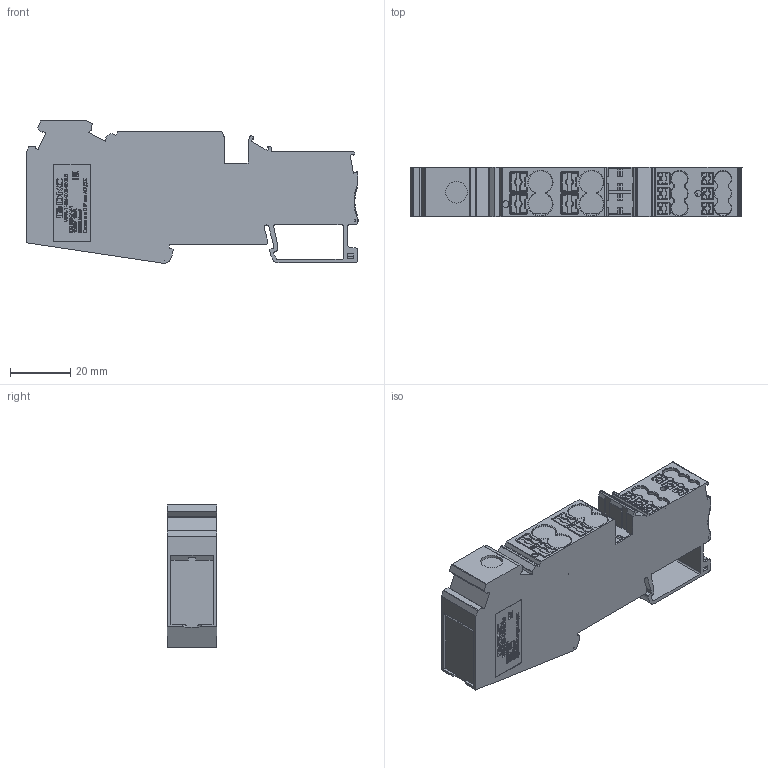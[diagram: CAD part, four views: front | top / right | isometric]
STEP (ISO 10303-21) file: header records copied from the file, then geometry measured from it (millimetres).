
FILE_DESCRIPTION (( 'STEP AP214' ), '1' );
FILE_NAME ('VPR-T-35-4X6-6X2.5.STEP', '2026-03-30T14:24:06', ( '' ), ( '' ), 'SwSTEP 2.0', 'SolidWorks 2022', '' );
FILE_SCHEMA (( 'AUTOMOTIVE_DESIGN' ));
Length unit declared in the file: millimetre
Products named in the file (1): VPR-T-35-4X6-6X2.5
Bounding box: 110.36 x 16.3 x 47.46 mm (x, y, z)
Volume: 61883.2 mm3; surface area: 16759.5 mm2
Topology: 1 solids, 4 shells, 3294 faces, 8717 edges, 5363 vertices
Faces by surface type: plane 1216, cylinder 839, bspline 717, sphere 310, torus 117, cone 95
Entity records: 112607 total; most frequent: CARTESIAN_POINT 30666, ORIENTED_EDGE 16920, DIRECTION 13786, EDGE_CURVE 8460, VERTEX_POINT 5336, VECTOR 4612, LINE 4612, AXIS2_PLACEMENT_3D 4587
